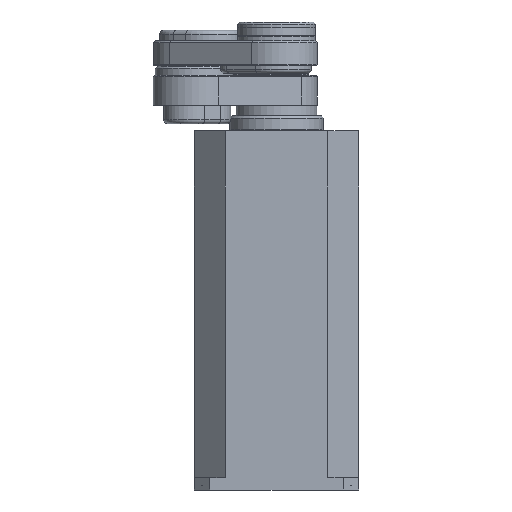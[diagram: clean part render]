
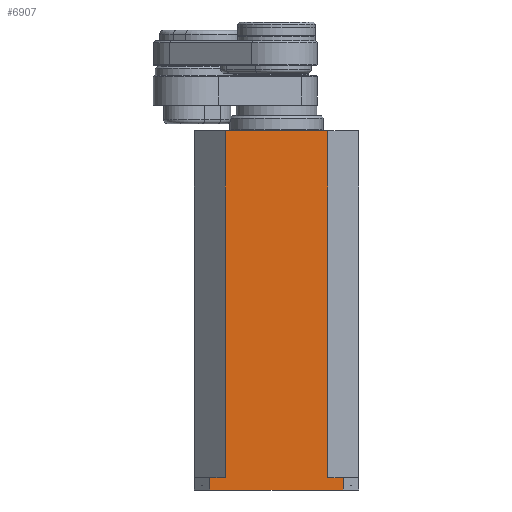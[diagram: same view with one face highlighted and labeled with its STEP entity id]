
A CAD part, front view. The second image highlights one B-rep face of the part: STEP entity #6907.
In plain terms, the highlighted planar face has unit normal (0, -1, 0) as drawn and (1, 0, 0) by its records, which use the part's own axes.
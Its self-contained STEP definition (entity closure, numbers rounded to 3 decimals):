
#5885=CARTESIAN_POINT('',(80.0,350.,50.0));
#5886=VERTEX_POINT('',#5885);
#5903=CARTESIAN_POINT('',(80.0,12.,50.0));
#5904=VERTEX_POINT('',#5903);
#5911=CARTESIAN_POINT('',(80.0,12.,50.0));
#5912=DIRECTION('',(0.0,1.0,0.0));
#5913=VECTOR('',#5912,338.);
#5914=LINE('',#5911,#5913);
#5915=EDGE_CURVE('',#5904,#5886,#5914,.T.);
#6007=CARTESIAN_POINT('',(80.,350.,-50.));
#6008=VERTEX_POINT('',#6007);
#6015=CARTESIAN_POINT('',(80.,12.,-50.));
#6016=VERTEX_POINT('',#6015);
#6017=CARTESIAN_POINT('',(80.,12.,-50.));
#6018=DIRECTION('',(0.0,1.0,0.0));
#6019=VECTOR('',#6018,338.);
#6020=LINE('',#6017,#6019);
#6021=EDGE_CURVE('',#6016,#6008,#6020,.T.);
#6045=CARTESIAN_POINT('',(80.,350.,-50.));
#6046=DIRECTION('',(0.0,0.0,1.0));
#6047=VECTOR('',#6046,100.);
#6048=LINE('',#6045,#6047);
#6049=EDGE_CURVE('',#6008,#5886,#6048,.T.);
#6095=CARTESIAN_POINT('',(80.0,12.,-65.0));
#6096=VERTEX_POINT('',#6095);
#6097=CARTESIAN_POINT('',(80.0,12.,-65.0));
#6098=DIRECTION('',(0.0,0.0,1.0));
#6099=VECTOR('',#6098,15.);
#6100=LINE('',#6097,#6099);
#6101=EDGE_CURVE('',#6096,#6016,#6100,.T.);
#6231=CARTESIAN_POINT('',(80.0,12.,65.0));
#6232=VERTEX_POINT('',#6231);
#6239=CARTESIAN_POINT('',(80.0,12.,50.0));
#6240=DIRECTION('',(0.0,0.0,1.0));
#6241=VECTOR('',#6240,15.0);
#6242=LINE('',#6239,#6241);
#6243=EDGE_CURVE('',#5904,#6232,#6242,.T.);
#6808=CARTESIAN_POINT('',(80.0,0.0,-65.0));
#6809=VERTEX_POINT('',#6808);
#6816=CARTESIAN_POINT('',(80.0,0.0,65.0));
#6817=VERTEX_POINT('',#6816);
#6818=CARTESIAN_POINT('',(80.0,0.0,-65.0));
#6819=DIRECTION('',(0.0,0.0,1.0));
#6820=VECTOR('',#6819,130.0);
#6821=LINE('',#6818,#6820);
#6822=EDGE_CURVE('',#6809,#6817,#6821,.T.);
#6878=CARTESIAN_POINT('',(80.0,0.0,65.0));
#6879=DIRECTION('',(0.0,1.0,0.0));
#6880=VECTOR('',#6879,12.);
#6881=LINE('',#6878,#6880);
#6882=EDGE_CURVE('',#6817,#6232,#6881,.T.);
#6887=CARTESIAN_POINT('',(80.0,0.0,-80.0));
#6888=DIRECTION('',(1.0,0.0,0.0));
#6889=DIRECTION('',(0.0,0.0,-1.0));
#6890=AXIS2_PLACEMENT_3D('',#6887,#6888,#6889);
#6891=PLANE('',#6890);
#6892=ORIENTED_EDGE('',*,*,#6882,.F.);
#6893=ORIENTED_EDGE('',*,*,#6822,.F.);
#6894=CARTESIAN_POINT('',(80.0,12.,-65.0));
#6895=DIRECTION('',(0.0,-1.0,0.0));
#6896=VECTOR('',#6895,12.);
#6897=LINE('',#6894,#6896);
#6898=EDGE_CURVE('',#6096,#6809,#6897,.T.);
#6899=ORIENTED_EDGE('',*,*,#6898,.F.);
#6900=ORIENTED_EDGE('',*,*,#6101,.T.);
#6901=ORIENTED_EDGE('',*,*,#6021,.T.);
#6902=ORIENTED_EDGE('',*,*,#6049,.T.);
#6903=ORIENTED_EDGE('',*,*,#5915,.F.);
#6904=ORIENTED_EDGE('',*,*,#6243,.T.);
#6905=EDGE_LOOP('',(#6892,#6893,#6899,#6900,#6901,#6902,#6903,#6904));
#6906=FACE_OUTER_BOUND('',#6905,.T.);
#6907=ADVANCED_FACE('',(#6906),#6891,.T.);
